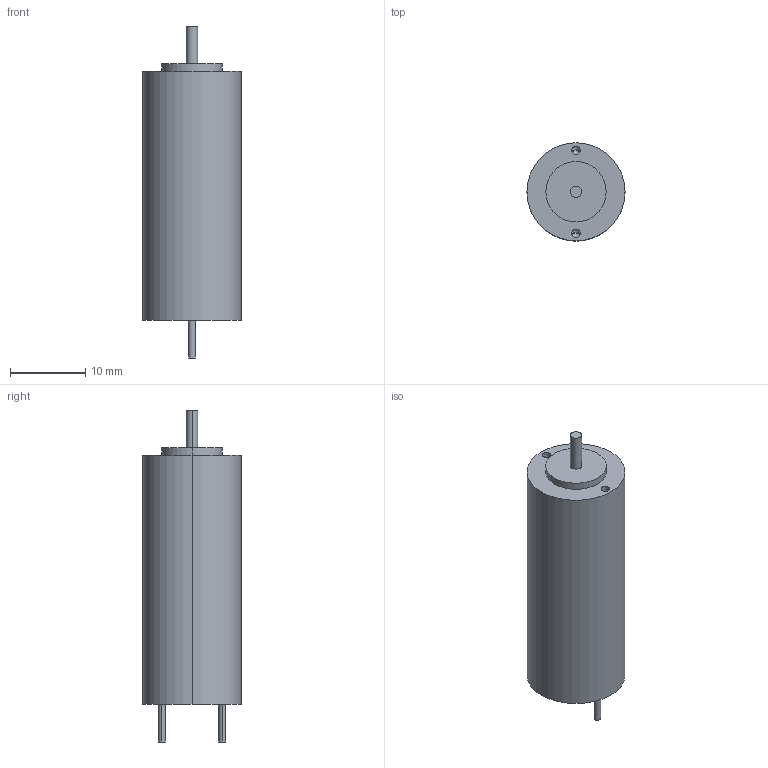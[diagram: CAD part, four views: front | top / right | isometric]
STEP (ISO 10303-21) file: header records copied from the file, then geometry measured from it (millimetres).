
FILE_DESCRIPTION (( 'STEP AP214' ), '1' );
FILE_NAME ('NC-1333.STEP', '2024-11-01T13:06:35', ( '' ), ( '' ), 'SwSTEP 2.0', 'SolidWorks 2024', '' );
FILE_SCHEMA (( 'AUTOMOTIVE_DESIGN' ));
Length unit declared in the file: millimetre
Products named in the file (1): NC-1333
Bounding box: 13 x 13 x 44 mm (x, y, z)
Volume: 4441.3 mm3; surface area: 1703.7 mm2
Topology: 1 solids, 1 shells, 24 faces, 50 edges, 30 vertices
Faces by surface type: cylinder 14, plane 6, cone 4
Entity records: 645 total; most frequent: DIRECTION 124, CARTESIAN_POINT 101, ORIENTED_EDGE 92, AXIS2_PLACEMENT_3D 53, EDGE_CURVE 46, VERTEX_POINT 30, EDGE_LOOP 30, CIRCLE 28
